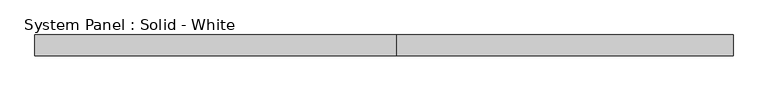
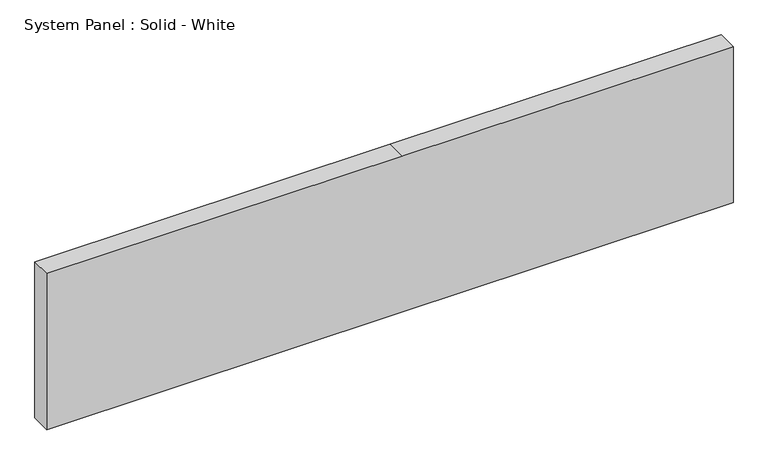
"""IFC4 building model written with IfcOpenShell, lengths in millimetres: plate geometry, System Panel : Solid - White."""

from ifc_helpers import new_model, si_unit, frame, origin, place, context, project, spatial, polyline, outline, extrude, source, transform, mapped, element, save


def system_panel_solid_white_80b295cb(model_context):
    return source(origin(), model_context, "Body", "SweptSolid", [
        extrude(outline(polyline([(0.0, -1069.0678573), (0.0, 38.5535715), (0.0, 1069.0678573), (514.35, 1069.0678573), (514.35, 38.5535715), (514.35, -1069.0678573), (0.0, -1069.0678573)])), frame((0.0, -19.05, 0.0), z_axis=(0.0, 1.0, 0.0), x_axis=(0.0, 0.0, 1.0)), (0.0, 0.0, 1.0), 63.5),
    ])


if __name__ == "__main__":
    model = new_model("IFC4")
    model_context = context("Model", 3, world=origin())
    ifc_project = project(units=[si_unit("LENGTHUNIT", "METRE", prefix="MILLI")], contexts=[model_context])
    site = spatial("IfcSite", under=ifc_project)
    building = spatial("IfcBuilding", under=site)
    placement = place(None, origin())
    system_panel_solid_white_shape = system_panel_solid_white_80b295cb(model_context)
    element("IfcPlate", 1, ObjectType="System Panel : Solid - White", at=placement, inside=building, context=model_context, shape_type="MappedRepresentation", body=[
        mapped(system_panel_solid_white_shape, transform((0.0, 0.0, 0.0), x_axis=(1.0, 0.0, 0.0), y_axis=(0.0, 1.0, 0.0), z_axis=(0.0, 0.0, 1.0))),
    ])
    save(model, "model.ifc")
